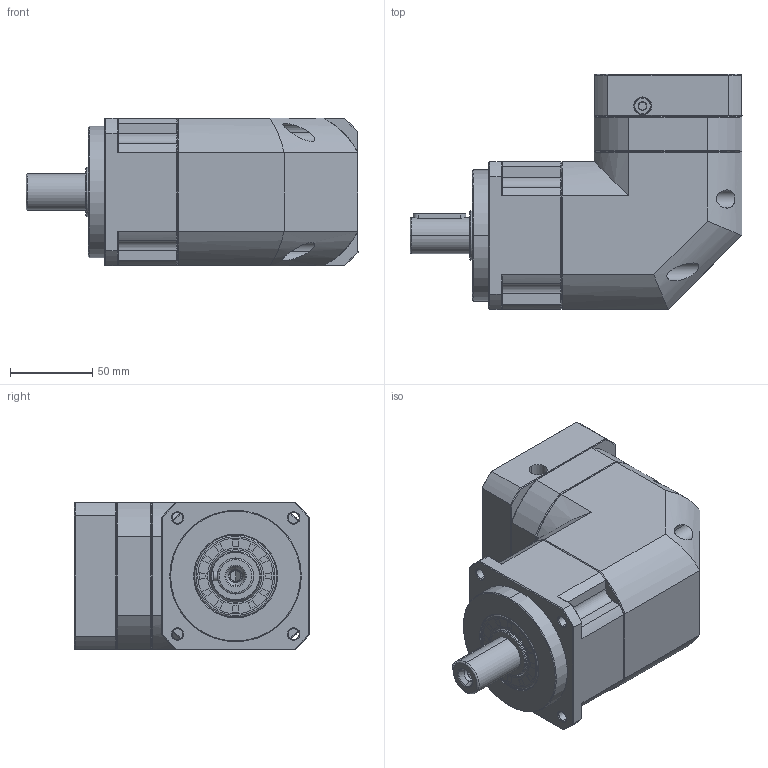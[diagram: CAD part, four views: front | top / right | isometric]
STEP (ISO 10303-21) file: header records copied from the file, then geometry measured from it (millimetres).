
FILE_DESCRIPTION (( 'STEP AP214' ), '1' );
FILE_NAME ('ZPBR090-D22-L1-P1-8-38.1-47.14X47.14-M4.step', '2024-06-07T18:34:58', ( 'Windows 蚚誧' ), ( 'Organization' ), 'SwSTEP 2.0', 'SolidWorks 2016', '' );
FILE_SCHEMA (( 'AUTOMOTIVE_DESIGN' ));
Length unit declared in the file: millimetre
Products named in the file (1): ZPBR090-D22-L1-P1-8-38.1-47.14X47.14-M4
Bounding box: 202 x 143 x 90 mm (x, y, z)
Surface area: 121022.5 mm2 (no closed solid volume)
Topology: 0 solids, 35 shells, 1823 faces, 4865 edges, 3126 vertices
Faces by surface type: plane 976, bspline 373, cone 240, cylinder 217, torus 17
Full cylindrical faces by diameter (mm): 6.72 x1
Entity records: 91929 total; most frequent: CARTESIAN_POINT 45587, ORIENTED_EDGE 9679, DIRECTION 7530, EDGE_CURVE 4860, LINE 3236, VECTOR 3236, VERTEX_POINT 3124, AXIS2_PLACEMENT_3D 2147
